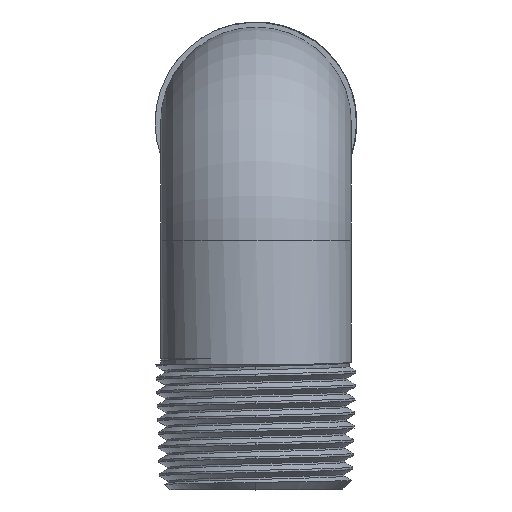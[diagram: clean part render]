
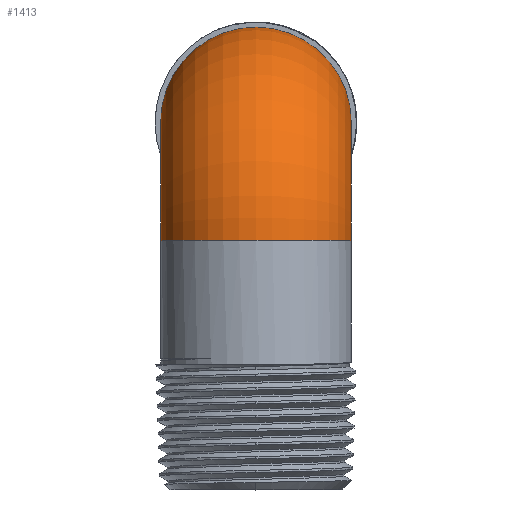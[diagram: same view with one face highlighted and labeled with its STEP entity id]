
A CAD part, top view. The second image highlights one B-rep face of the part: STEP entity #1413.
In plain terms, the highlighted toroidal (fillet/blend) face has major radius 15.621 mm and minor radius 12.573 mm.
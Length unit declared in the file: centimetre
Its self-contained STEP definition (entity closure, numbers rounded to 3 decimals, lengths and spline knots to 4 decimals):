
#104=TOROIDAL_SURFACE('',#1506,1.5621,1.2573);
#298=CIRCLE('',#1499,1.2573);
#299=CIRCLE('',#1501,1.2573);
#435=VERTEX_POINT('',#45163);
#436=VERTEX_POINT('',#45166);
#762=EDGE_CURVE('',#435,#435,#298,.T.);
#763=EDGE_CURVE('',#436,#436,#299,.T.);
#1168=ORIENTED_EDGE('',*,*,#763,.T.);
#1169=ORIENTED_EDGE('',*,*,#762,.T.);
#1252=EDGE_LOOP('',(#1168));
#1253=EDGE_LOOP('',(#1169));
#1336=FACE_BOUND('',#1252,.T.);
#1337=FACE_BOUND('',#1253,.T.);
#1413=ADVANCED_FACE('',(#1336,#1337),#104,.T.);
#1499=AXIS2_PLACEMENT_3D('',#45162,#1723,#1724);
#1501=AXIS2_PLACEMENT_3D('',#45165,#1727,#1728);
#1506=AXIS2_PLACEMENT_3D('',#45173,#1737,$);
#1723=DIRECTION('',(0.,0.,1.));
#1724=DIRECTION('',(1.257,0.,0.));
#1727=DIRECTION('',(0.,1.,0.));
#1728=DIRECTION('',(1.257,0.,0.));
#1737=DIRECTION('',(1.,0.,0.));
#45162=CARTESIAN_POINT('',(0.,0.,0.));
#45163=CARTESIAN_POINT('',(1.2573,0.,0.));
#45165=CARTESIAN_POINT('',(0.,-1.5621,1.5621));
#45166=CARTESIAN_POINT('',(1.2573,-1.5621,1.5621));
#45173=CARTESIAN_POINT('',(0.,-1.5621,0.));
